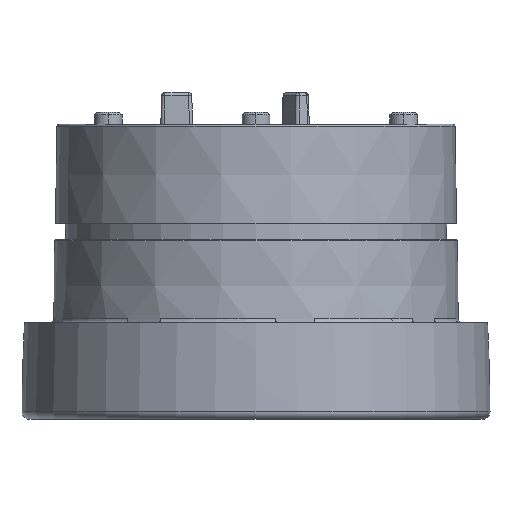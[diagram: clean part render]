
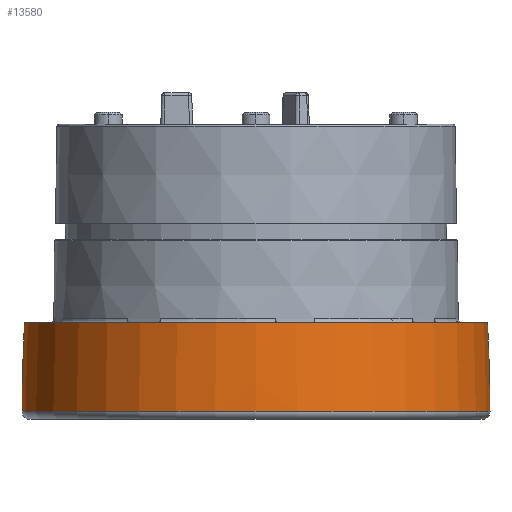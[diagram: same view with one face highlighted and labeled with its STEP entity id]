
A CAD part, front view. The second image highlights one B-rep face of the part: STEP entity #13580.
In plain terms, the highlighted free-form (B-spline) face has degree [3, 3] with [7, 4] control points.
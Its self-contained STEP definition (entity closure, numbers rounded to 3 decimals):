
#933=CARTESIAN_POINT('',(-220.971,0.002,
-11.259));
#934=DIRECTION('',(0.,1.,0.));
#935=DIRECTION('',(0.999,0.,0.05));
#936=AXIS2_PLACEMENT_3D('',#933,#934,#935);
#938=CARTESIAN_POINT('',(0.,0.,
-10.));
#939=DIRECTION('',(0.,0.,-1.));
#940=DIRECTION('',(1.,0.,0.));
#941=AXIS2_PLACEMENT_3D('',#938,#939,#940);
#943=CARTESIAN_POINT('',(220.971,-0.002,
-11.259));
#944=DIRECTION('',(0.,-1.,0.));
#945=DIRECTION('',(-0.999,0.,0.05));
#946=AXIS2_PLACEMENT_3D('',#943,#944,#945);
#953=CARTESIAN_POINT('',(0.,0.,
1.2));
#954=DIRECTION('',(0.,0.,-1.));
#955=DIRECTION('',(1.,0.,0.));
#956=AXIS2_PLACEMENT_3D('',#953,#954,#955);
#9814=CARTESIAN_POINT('',(-29.5,0.,-10.));
#9815=VERTEX_POINT('',#9814);
#9816=CARTESIAN_POINT('',(29.5,0.,-10.));
#9817=VERTEX_POINT('',#9816);
#9818=CARTESIAN_POINT('',(-29.193,0.,
1.2));
#9819=VERTEX_POINT('',#9818);
#9820=CARTESIAN_POINT('',(29.193,0.,
1.2));
#9821=VERTEX_POINT('',#9820);
#13542=CARTESIAN_POINT('',(29.124,1.832,1.424));
#13543=CARTESIAN_POINT('',(29.321,1.844,
-2.456));
#13544=CARTESIAN_POINT('',(29.427,1.851,
-6.339));
#13545=CARTESIAN_POINT('',(29.443,1.852,
-10.224));
#13546=CARTESIAN_POINT('',(30.252,-16.091,
1.424));
#13547=CARTESIAN_POINT('',(30.456,-16.199,
-2.456));
#13548=CARTESIAN_POINT('',(30.566,-16.258,
-6.339));
#13549=CARTESIAN_POINT('',(30.583,-16.267,
-10.224));
#13550=CARTESIAN_POINT('',(17.958,-29.182,
1.424));
#13551=CARTESIAN_POINT('',(18.079,-29.379,
-2.456));
#13552=CARTESIAN_POINT('',(18.145,-29.485,
-6.339));
#13553=CARTESIAN_POINT('',(18.155,-29.501,
-10.224));
#13554=CARTESIAN_POINT('',(0.,-29.182,
1.424));
#13555=CARTESIAN_POINT('',(0.,-29.379,
-2.456));
#13556=CARTESIAN_POINT('',(0.,-29.485,
-6.339));
#13557=CARTESIAN_POINT('',(0.,-29.501,
-10.224));
#13558=CARTESIAN_POINT('',(-17.958,-29.182,
1.424));
#13559=CARTESIAN_POINT('',(-18.079,-29.379,
-2.456));
#13560=CARTESIAN_POINT('',(-18.145,-29.485,
-6.339));
#13561=CARTESIAN_POINT('',(-18.155,-29.501,
-10.224));
#13562=CARTESIAN_POINT('',(-30.252,-16.091,
1.424));
#13563=CARTESIAN_POINT('',(-30.456,-16.199,
-2.456));
#13564=CARTESIAN_POINT('',(-30.566,-16.258,
-6.339));
#13565=CARTESIAN_POINT('',(-30.583,-16.267,
-10.224));
#13566=CARTESIAN_POINT('',(-29.124,1.832,
1.424));
#13567=CARTESIAN_POINT('',(-29.321,1.844,
-2.456));
#13568=CARTESIAN_POINT('',(-29.427,1.851,
-6.339));
#13569=CARTESIAN_POINT('',(-29.443,1.852,
-10.224));
#13570=(BOUNDED_SURFACE()B_SPLINE_SURFACE(3,3,((#13542,#13543,#13544,#13545),(
#13546,#13547,#13548,#13549),(#13550,#13551,#13552,#13553),(#13554,#13555,
#13556,#13557),(#13558,#13559,#13560,#13561),(#13562,#13563,#13564,#13565),(
#13566,#13567,#13568,#13569)),.UNSPECIFIED.,.F.,.F.,.F.)B_SPLINE_SURFACE_WITH_KNOTS((4,3,4),(4,4),(0.,1.,2.),(0.,1.),.UNSPECIFIED.)GEOMETRIC_REPRESENTATION_ITEM()RATIONAL_B_SPLINE_SURFACE(((1.187,1.187,
1.187,1.187),(0.938,0.938,
0.938,0.938),(0.938,0.938,
0.938,0.938),(1.187,1.187,
1.187,1.187),(0.938,0.938,
0.938,0.938),(0.938,0.938,
0.938,0.938),(1.187,1.187,
1.187,1.187)))REPRESENTATION_ITEM('')SURFACE());
#13572=ORIENTED_EDGE('',*,*,#13571,.F.);
#13574=ORIENTED_EDGE('',*,*,#13573,.F.);
#13576=ORIENTED_EDGE('',*,*,#13575,.T.);
#13577=ORIENTED_EDGE('',*,*,#13535,.T.);
#13578=EDGE_LOOP('',(#13572,#13574,#13576,#13577));
#13579=FACE_OUTER_BOUND('',#13578,.F.);
#937=CIRCLE('',#936,250.474);
#942=CIRCLE('',#941,29.5);
#947=CIRCLE('',#946,250.474);
#957=CIRCLE('',#956,29.193);
#13535=EDGE_CURVE('',#9817,#9815,#942,.T.);
#13571=EDGE_CURVE('',#9819,#9815,#947,.T.);
#13573=EDGE_CURVE('',#9821,#9819,#957,.T.);
#13575=EDGE_CURVE('',#9821,#9817,#937,.T.);
#13580=ADVANCED_FACE('',(#13579),#13570,.T.);
